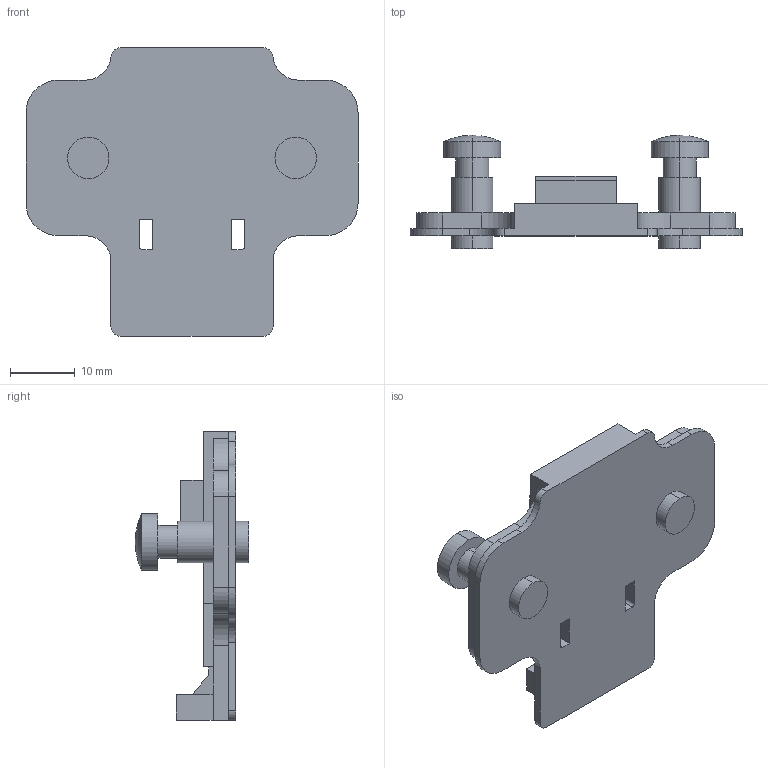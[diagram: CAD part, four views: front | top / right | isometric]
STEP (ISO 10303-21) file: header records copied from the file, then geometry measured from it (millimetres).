
FILE_DESCRIPTION (( 'STEP AP203' ), '1' );
FILE_NAME ('96H02AQ-DTC3D.STEP', '2021-04-12T09:14:58', ( '' ), ( '' ), 'SwSTEP 2.0', 'SolidWorks 2018', '' );
FILE_SCHEMA (( 'CONFIG_CONTROL_DESIGN' ));
Length unit declared in the file: millimetre
Products named in the file (1): 96H02AQ-DTC3D
Bounding box: 51.2 x 17.5 x 44.5 mm (x, y, z)
Volume: 8224.8 mm3; surface area: 5318.5 mm2
Topology: 1 solids, 1 shells, 96 faces, 261 edges, 170 vertices
Faces by surface type: plane 54, cylinder 38, torus 4
Entity records: 3094 total; most frequent: DIRECTION 531, CARTESIAN_POINT 524, ORIENTED_EDGE 514, EDGE_CURVE 257, VECTOR 177, AXIS2_PLACEMENT_3D 177, LINE 177, VERTEX_POINT 170
